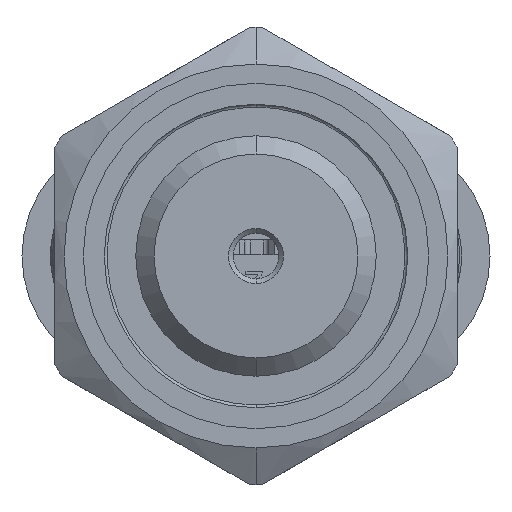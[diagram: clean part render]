
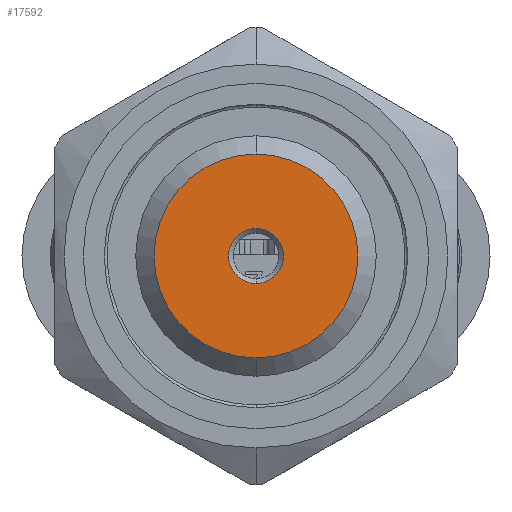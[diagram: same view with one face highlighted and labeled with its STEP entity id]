
A CAD part, front view. The second image highlights one B-rep face of the part: STEP entity #17592.
In plain terms, the highlighted planar face has unit normal (0, -1, 0).
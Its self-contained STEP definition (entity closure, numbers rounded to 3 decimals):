
#934 = AXIS2_PLACEMENT_3D ( 'NONE', #15958, #7334, #17394 ) ;
#1395 = AXIS2_PLACEMENT_3D ( 'NONE', #4116, #14189, #5560 ) ;
#1600 = CARTESIAN_POINT ( 'NONE',  ( 0., 0., 0. ) ) ;
#2115 = FACE_OUTER_BOUND ( 'NONE', #16624, .T. ) ;
#2236 = EDGE_CURVE ( 'NONE', #11418, #4358, #4276, .T. ) ;
#2837 = EDGE_CURVE ( 'NONE', #12588, #8494, #3615, .T. ) ;
#3019 = FACE_BOUND ( 'NONE', #4102, .T. ) ;
#3328 = ORIENTED_EDGE ( 'NONE', *, *, #2837, .T. ) ;
#3615 = CIRCLE ( 'NONE', #934, 1.5 ) ;
#4102 = EDGE_LOOP ( 'NONE', ( #4587, #3328 ) ) ;
#4116 = CARTESIAN_POINT ( 'NONE',  ( 0., 0., 0. ) ) ;
#4276 = CIRCLE ( 'NONE', #18430, 5.579 ) ;
#4358 = VERTEX_POINT ( 'NONE', #15420 ) ;
#4587 = ORIENTED_EDGE ( 'NONE', *, *, #16857, .T. ) ;
#5560 = DIRECTION ( 'NONE',  ( 0., 0., -1. ) ) ;
#5978 = PLANE ( 'NONE',  #11490 ) ;
#6020 = CARTESIAN_POINT ( 'NONE',  ( 0., 0., 1.5 ) ) ;
#6583 = DIRECTION ( 'NONE',  ( 0., -1., 0. ) ) ;
#7262 = CARTESIAN_POINT ( 'NONE',  ( 0., 0., 0. ) ) ;
#7334 = DIRECTION ( 'NONE',  ( 0., 1., 0. ) ) ;
#7425 = DIRECTION ( 'NONE',  ( 0., 0., -1. ) ) ;
#8494 = VERTEX_POINT ( 'NONE', #17214 ) ;
#8717 = DIRECTION ( 'NONE',  ( 0., 0., -1. ) ) ;
#8983 = AXIS2_PLACEMENT_3D ( 'NONE', #7262, #17315, #8717 ) ;
#9400 = EDGE_CURVE ( 'NONE', #4358, #11418, #12829, .T. ) ;
#10098 = CARTESIAN_POINT ( 'NONE',  ( 0., 0., -5.579 ) ) ;
#11418 = VERTEX_POINT ( 'NONE', #10098 ) ;
#11490 = AXIS2_PLACEMENT_3D ( 'NONE', #1600, #16059, #7425 ) ;
#11642 = CIRCLE ( 'NONE', #8983, 1.5 ) ;
#12588 = VERTEX_POINT ( 'NONE', #6020 ) ;
#12829 = CIRCLE ( 'NONE', #1395, 5.579 ) ;
#14189 = DIRECTION ( 'NONE',  ( 0., -1., 0. ) ) ;
#15199 = CARTESIAN_POINT ( 'NONE',  ( 0., 0., 0. ) ) ;
#15420 = CARTESIAN_POINT ( 'NONE',  ( 0., 0., 5.579 ) ) ;
#15545 = ORIENTED_EDGE ( 'NONE', *, *, #9400, .T. ) ;
#15958 = CARTESIAN_POINT ( 'NONE',  ( 0., 0., 0. ) ) ;
#16059 = DIRECTION ( 'NONE',  ( 0., -1., 0. ) ) ;
#16315 = ORIENTED_EDGE ( 'NONE', *, *, #2236, .T. ) ;
#16624 = EDGE_LOOP ( 'NONE', ( #15545, #16315 ) ) ;
#16660 = DIRECTION ( 'NONE',  ( 0., 0., -1. ) ) ;
#16857 = EDGE_CURVE ( 'NONE', #8494, #12588, #11642, .T. ) ;
#17214 = CARTESIAN_POINT ( 'NONE',  ( 0., 0., -1.5 ) ) ;
#17315 = DIRECTION ( 'NONE',  ( 0., 1., 0. ) ) ;
#17394 = DIRECTION ( 'NONE',  ( 0., 0., -1. ) ) ;
#17592 = ADVANCED_FACE ( 'NONE', ( #3019, #2115 ), #5978, .T. ) ;
#18430 = AXIS2_PLACEMENT_3D ( 'NONE', #15199, #6583, #16660 ) ;
